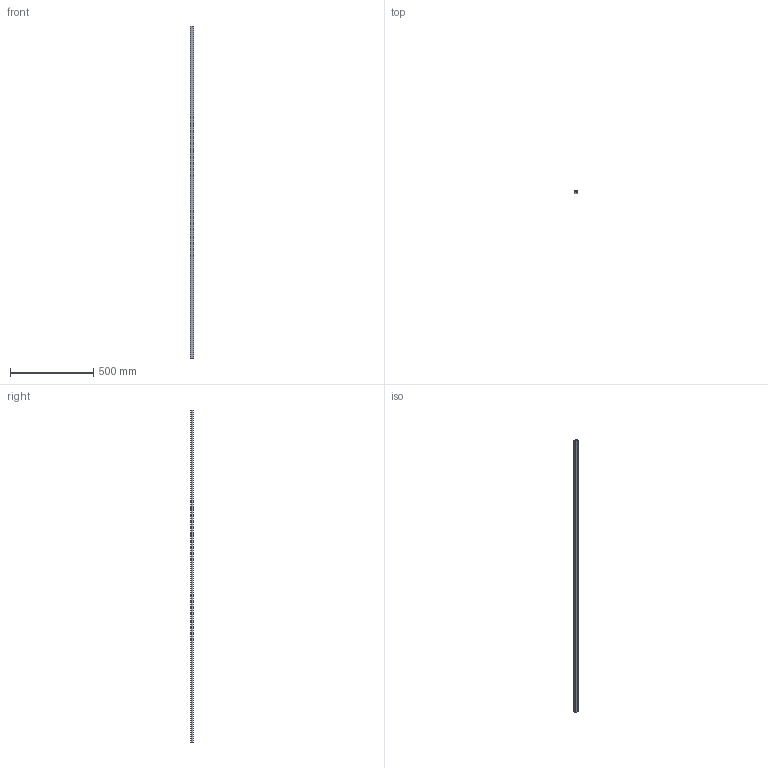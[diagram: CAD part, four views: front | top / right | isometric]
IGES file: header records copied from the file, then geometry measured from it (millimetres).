
Start section: SolidWorks IGES file using analytic representation for surfaces
Global section: file name: C:\Documents and Settings\ARGE\Desktop\yeni katalog tolgay düzenli\E kataloðu\ALPOLEN 1000 TCG ZÝNCÝR KIZAKLARI\207 TCG P38.IGS; native system: SolidWorks 2006 by SolidWorks Corporation; preprocessor: SolidWorks 2006 by SolidWorks Corporation; author: ARGE2; date: 060913.091021; units: millimetre
Bounding box: 20 x 15 x 2000 mm (x, y, z)
Surface area: 333018.1 mm2 (no closed solid volume)
Topology: 0 solids, 0 shells, 36 faces, 248 edges, 248 vertices
Faces by surface type: bspline 32, revolution 4
